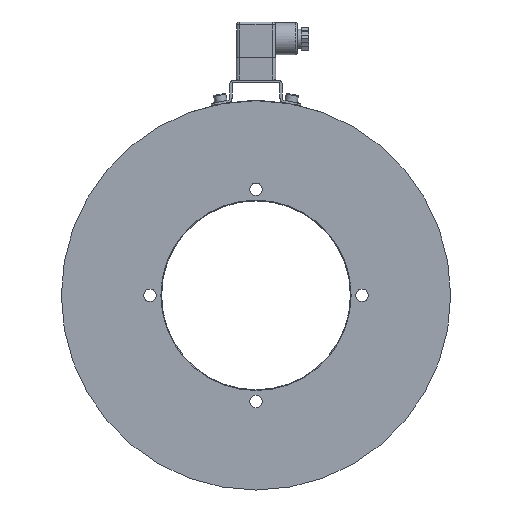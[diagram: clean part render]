
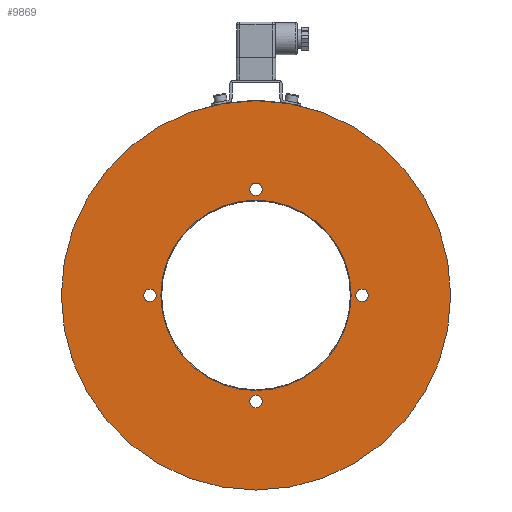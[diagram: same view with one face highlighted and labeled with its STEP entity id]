
A CAD part, left-side view. The second image highlights one B-rep face of the part: STEP entity #9869.
In plain terms, the highlighted planar face has unit normal (-1, 0, 0).
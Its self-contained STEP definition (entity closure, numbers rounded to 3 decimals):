
#175=PLANE('',#11172);
#329=FACE_BOUND('',#1318,.T.);
#330=FACE_BOUND('',#1319,.T.);
#331=FACE_BOUND('',#1320,.T.);
#332=FACE_BOUND('',#1321,.T.);
#333=FACE_BOUND('',#1322,.T.);
#736=FACE_OUTER_BOUND('',#1317,.T.);
#1317=EDGE_LOOP('',(#8171,#8172,#8173));
#1318=EDGE_LOOP('',(#8174,#8175));
#1319=EDGE_LOOP('',(#8176,#8177));
#1320=EDGE_LOOP('',(#8178,#8179));
#1321=EDGE_LOOP('',(#8180,#8181));
#1322=EDGE_LOOP('',(#8182));
#1471=CIRCLE('',#9988,134.);
#1472=CIRCLE('',#9989,134.);
#2266=CIRCLE('',#11173,134.);
#2267=CIRCLE('',#11174,4.25);
#2268=CIRCLE('',#11175,4.25);
#2269=CIRCLE('',#11176,4.25);
#2270=CIRCLE('',#11177,4.25);
#2271=CIRCLE('',#11178,4.25);
#2272=CIRCLE('',#11179,4.25);
#2273=CIRCLE('',#11180,4.25);
#2274=CIRCLE('',#11181,4.25);
#2275=CIRCLE('',#11182,65.5);
#3393=VERTEX_POINT('',#14631);
#3394=VERTEX_POINT('',#14633);
#3395=VERTEX_POINT('',#14635);
#4189=VERTEX_POINT('',#17390);
#4190=VERTEX_POINT('',#17391);
#4191=VERTEX_POINT('',#17394);
#4192=VERTEX_POINT('',#17395);
#4193=VERTEX_POINT('',#17398);
#4194=VERTEX_POINT('',#17399);
#4195=VERTEX_POINT('',#17402);
#4196=VERTEX_POINT('',#17403);
#4197=VERTEX_POINT('',#17406);
#4357=EDGE_CURVE('',#3394,#3393,#1471,.T.);
#4358=EDGE_CURVE('',#3395,#3394,#1472,.T.);
#5563=EDGE_CURVE('',#3393,#3395,#2266,.T.);
#5564=EDGE_CURVE('',#4189,#4190,#2267,.T.);
#5565=EDGE_CURVE('',#4190,#4189,#2268,.T.);
#5566=EDGE_CURVE('',#4191,#4192,#2269,.T.);
#5567=EDGE_CURVE('',#4192,#4191,#2270,.T.);
#5568=EDGE_CURVE('',#4193,#4194,#2271,.T.);
#5569=EDGE_CURVE('',#4194,#4193,#2272,.T.);
#5570=EDGE_CURVE('',#4195,#4196,#2273,.T.);
#5571=EDGE_CURVE('',#4196,#4195,#2274,.T.);
#5572=EDGE_CURVE('',#4197,#4197,#2275,.T.);
#8171=ORIENTED_EDGE('',*,*,#4357,.T.);
#8172=ORIENTED_EDGE('',*,*,#5563,.T.);
#8173=ORIENTED_EDGE('',*,*,#4358,.T.);
#8174=ORIENTED_EDGE('',*,*,#5564,.T.);
#8175=ORIENTED_EDGE('',*,*,#5565,.T.);
#8176=ORIENTED_EDGE('',*,*,#5566,.T.);
#8177=ORIENTED_EDGE('',*,*,#5567,.T.);
#8178=ORIENTED_EDGE('',*,*,#5568,.T.);
#8179=ORIENTED_EDGE('',*,*,#5569,.T.);
#8180=ORIENTED_EDGE('',*,*,#5570,.T.);
#8181=ORIENTED_EDGE('',*,*,#5571,.T.);
#8182=ORIENTED_EDGE('',*,*,#5572,.F.);
#9869=ADVANCED_FACE('',(#736,#329,#330,#331,#332,#333),#175,.T.);
#9988=AXIS2_PLACEMENT_3D('',#14634,#11368,#11369);
#9989=AXIS2_PLACEMENT_3D('',#14636,#11370,#11371);
#11172=AXIS2_PLACEMENT_3D('',#17388,#14103,#14104);
#11173=AXIS2_PLACEMENT_3D('',#17389,#14105,#14106);
#11174=AXIS2_PLACEMENT_3D('',#17392,#14107,#14108);
#11175=AXIS2_PLACEMENT_3D('',#17393,#14109,#14110);
#11176=AXIS2_PLACEMENT_3D('',#17396,#14111,#14112);
#11177=AXIS2_PLACEMENT_3D('',#17397,#14113,#14114);
#11178=AXIS2_PLACEMENT_3D('',#17400,#14115,#14116);
#11179=AXIS2_PLACEMENT_3D('',#17401,#14117,#14118);
#11180=AXIS2_PLACEMENT_3D('',#17404,#14119,#14120);
#11181=AXIS2_PLACEMENT_3D('',#17405,#14121,#14122);
#11182=AXIS2_PLACEMENT_3D('',#17407,#14123,#14124);
#11368=DIRECTION('center_axis',(-1.,0.,0.));
#11369=DIRECTION('ref_axis',(0.,1.,0.));
#11370=DIRECTION('center_axis',(-1.,0.,0.));
#11371=DIRECTION('ref_axis',(0.,1.,0.));
#14103=DIRECTION('center_axis',(-1.,0.,0.));
#14104=DIRECTION('ref_axis',(0.,0.,
1.));
#14105=DIRECTION('center_axis',(-1.,0.,0.));
#14106=DIRECTION('ref_axis',(0.,1.,0.));
#14107=DIRECTION('center_axis',(1.,0.,0.));
#14108=DIRECTION('ref_axis',(0.,1.,0.));
#14109=DIRECTION('center_axis',(1.,0.,0.));
#14110=DIRECTION('ref_axis',(0.,1.,0.));
#14111=DIRECTION('center_axis',(1.,0.,0.));
#14112=DIRECTION('ref_axis',(0.,1.,0.));
#14113=DIRECTION('center_axis',(1.,0.,0.));
#14114=DIRECTION('ref_axis',(0.,1.,0.));
#14115=DIRECTION('center_axis',(1.,0.,0.));
#14116=DIRECTION('ref_axis',(0.,1.,0.));
#14117=DIRECTION('center_axis',(1.,0.,0.));
#14118=DIRECTION('ref_axis',(0.,1.,0.));
#14119=DIRECTION('center_axis',(1.,0.,0.));
#14120=DIRECTION('ref_axis',(0.,1.,0.));
#14121=DIRECTION('center_axis',(1.,0.,0.));
#14122=DIRECTION('ref_axis',(0.,1.,0.));
#14123=DIRECTION('center_axis',(-1.,0.,0.));
#14124=DIRECTION('ref_axis',(0.,-1.,0.));
#14631=CARTESIAN_POINT('',(-19.8,-134.,0.));
#14633=CARTESIAN_POINT('',(-19.8,134.,0.));
#14634=CARTESIAN_POINT('Origin',(-19.8,0.,0.));
#14635=CARTESIAN_POINT('',(-19.8,-23.269,131.964));
#14636=CARTESIAN_POINT('Origin',(-19.8,0.,0.));
#17388=CARTESIAN_POINT('Origin',(-19.8,99.5,0.));
#17389=CARTESIAN_POINT('Origin',(-19.8,0.,0.));
#17390=CARTESIAN_POINT('',(-19.8,4.25,-73.));
#17391=CARTESIAN_POINT('',(-19.8,-4.25,-73.));
#17392=CARTESIAN_POINT('Origin',(-19.8,0.,-73.));
#17393=CARTESIAN_POINT('Origin',(-19.8,0.,-73.));
#17394=CARTESIAN_POINT('',(-19.8,4.25,73.));
#17395=CARTESIAN_POINT('',(-19.8,-4.25,73.));
#17396=CARTESIAN_POINT('Origin',(-19.8,0.,73.));
#17397=CARTESIAN_POINT('Origin',(-19.8,0.,73.));
#17398=CARTESIAN_POINT('',(-19.8,77.25,0.));
#17399=CARTESIAN_POINT('',(-19.8,68.75,0.));
#17400=CARTESIAN_POINT('Origin',(-19.8,73.,0.));
#17401=CARTESIAN_POINT('Origin',(-19.8,73.,0.));
#17402=CARTESIAN_POINT('',(-19.8,-68.75,0.));
#17403=CARTESIAN_POINT('',(-19.8,-77.25,0.));
#17404=CARTESIAN_POINT('Origin',(-19.8,-73.,0.));
#17405=CARTESIAN_POINT('Origin',(-19.8,-73.,0.));
#17406=CARTESIAN_POINT('',(-19.8,65.5,0.));
#17407=CARTESIAN_POINT('Origin',(-19.8,0.,0.));
